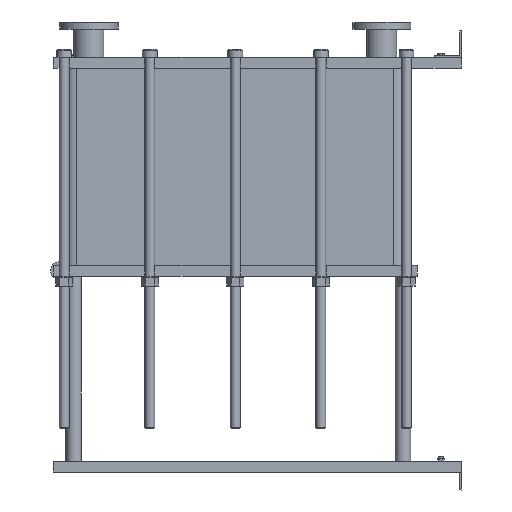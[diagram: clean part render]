
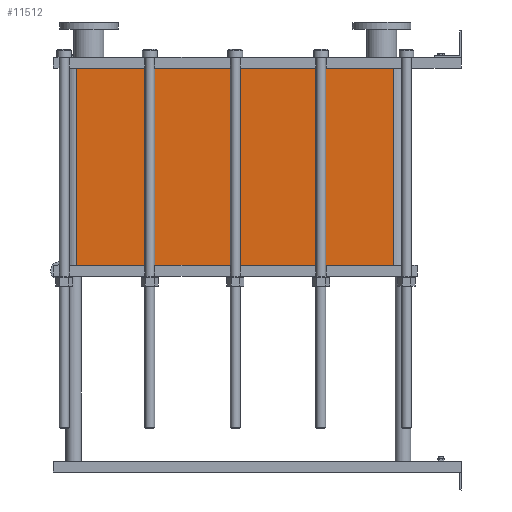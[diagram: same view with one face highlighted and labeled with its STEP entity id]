
A CAD part, left-side view. The second image highlights one B-rep face of the part: STEP entity #11512.
In plain terms, the highlighted planar face has unit normal (-1, 0, 0).
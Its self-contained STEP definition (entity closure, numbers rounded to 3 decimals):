
#1129=LINE('',#23232,#2102);
#1130=LINE('',#23236,#2103);
#1131=LINE('',#23238,#2104);
#1132=LINE('',#23239,#2105);
#2102=VECTOR('',#15887,10.);
#2103=VECTOR('',#15892,10.);
#2104=VECTOR('',#15893,10.);
#2105=VECTOR('',#15894,10.);
#3267=FACE_OUTER_BOUND('',#4093,.T.);
#4093=EDGE_LOOP('',(#10103,#10104,#10105,#10106));
#5642=VERTEX_POINT('',#23229);
#5643=VERTEX_POINT('',#23231);
#5644=VERTEX_POINT('',#23235);
#5645=VERTEX_POINT('',#23237);
#7159=EDGE_CURVE('',#5643,#5642,#1129,.T.);
#7161=EDGE_CURVE('',#5642,#5644,#1130,.T.);
#7162=EDGE_CURVE('',#5645,#5644,#1131,.T.);
#7163=EDGE_CURVE('',#5645,#5643,#1132,.T.);
#10103=ORIENTED_EDGE('',*,*,#7161,.T.);
#10104=ORIENTED_EDGE('',*,*,#7162,.F.);
#10105=ORIENTED_EDGE('',*,*,#7163,.T.);
#10106=ORIENTED_EDGE('',*,*,#7159,.T.);
#10857=PLANE('',#12751);
#11512=ADVANCED_FACE('',(#3267),#10857,.T.);
#12751=AXIS2_PLACEMENT_3D('',#23234,#15890,#15891);
#15887=DIRECTION('',(0.,0.,-1.));
#15890=DIRECTION('center_axis',(-1.,0.,0.));
#15891=DIRECTION('ref_axis',(0.,1.,0.));
#15892=DIRECTION('',(0.,-1.,0.));
#15893=DIRECTION('',(0.,0.,-1.));
#15894=DIRECTION('',(0.,1.,0.));
#23229=CARTESIAN_POINT('',(-200.,1414.,-724.5));
#23231=CARTESIAN_POINT('',(-200.,1414.,0.));
#23232=CARTESIAN_POINT('',(-200.,1414.,0.));
#23234=CARTESIAN_POINT('Origin',(-200.,248.,0.));
#23235=CARTESIAN_POINT('',(-200.,248.,-724.5));
#23236=CARTESIAN_POINT('',(-200.,539.5,-724.5));
#23237=CARTESIAN_POINT('',(-200.,248.,0.));
#23238=CARTESIAN_POINT('',(-200.,248.,0.));
#23239=CARTESIAN_POINT('',(-200.,248.,0.));
